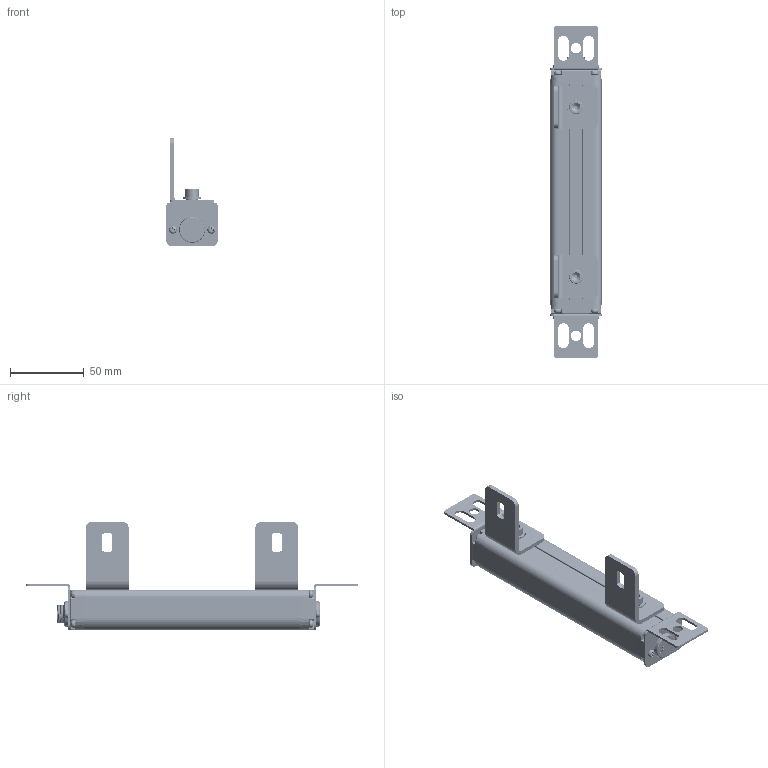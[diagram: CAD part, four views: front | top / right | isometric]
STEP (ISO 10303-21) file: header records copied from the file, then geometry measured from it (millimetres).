
FILE_DESCRIPTION((''),'2;1');
FILE_NAME('ELG-0440_ASM','2021-08-07T09:11:31',('18720616900'),(''),'CREO PARAMETRIC BY PTC INC, 2019010','CREO PARAMETRIC BY PTC INC, 2019010','');
FILE_SCHEMA(('CONFIG_CONTROL_DESIGN'));
Products named in the file (18): ELG--00; ELG--000; ELG000; M3--0001; 3000; 3--0001; ELG_30001_ASM; ST-3-12; L20001; M3-6; L10001; M6-1--00; M6-1-00; M6-8--0001; 00; L1--0001_ASM; ELG-0440_ASM
Assembly tree (34 placements, depth 3):
  ELG-0440_ASM
    ELG--00
    ELG--000
    ELG000
    ELG000
    M3--0001  x4
    ELG_30001_ASM
      3000
      3--0001  x3
    ST-3-12  x8
    L20001  x2
    M3-6  x4
    L1--0001_ASM  x2
      L10001
      M6-1--00
      M6-1-00
      M6-8--0001
      00
Bounding box: 35 x 225 x 73.4 mm (x, y, z)
Volume: 158791.4 mm3; surface area: 61025.3 mm2
Topology: 36 solids, 36 shells, 3404 faces, 9468 edges, 6167 vertices
Faces by surface type: cylinder 1928, plane 616, bspline 398, cone 353, torus 99, sphere 10
Entity records: 68753 total; most frequent: CARTESIAN_POINT 35026, ORIENTED_EDGE 7326, DIRECTION 6679, EDGE_CURVE 3663, AXIS2_PLACEMENT_3D 2530, VERTEX_POINT 2387, VECTOR 1619, LINE 1619
